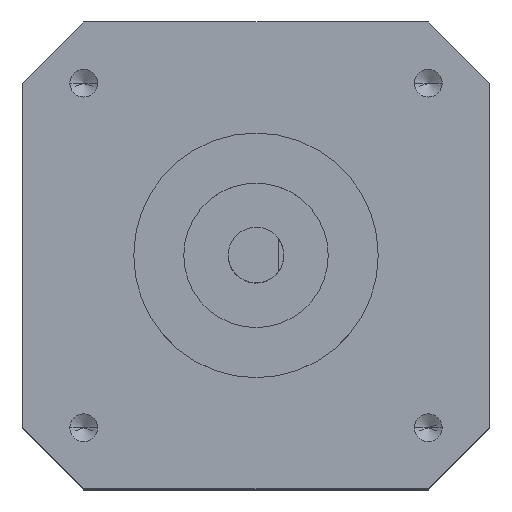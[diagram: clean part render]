
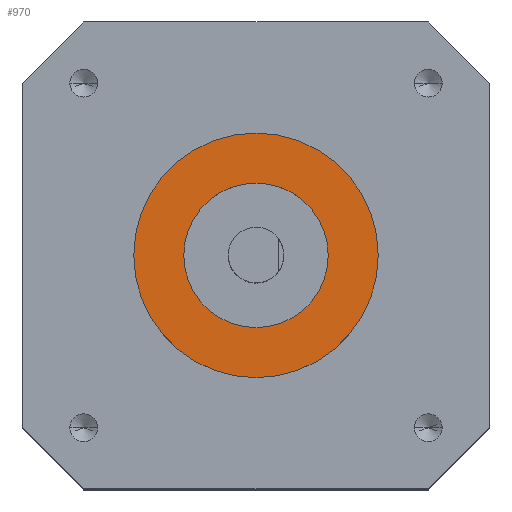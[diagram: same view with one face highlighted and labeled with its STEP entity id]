
A CAD part, top view. The second image highlights one B-rep face of the part: STEP entity #970.
In plain terms, the highlighted planar face has unit normal (0, 0, 1).
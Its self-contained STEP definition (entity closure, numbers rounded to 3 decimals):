
#28 = EDGE_LOOP ( 'NONE', ( #897, #2098 ) ) ;
#188 = AXIS2_PLACEMENT_3D ( 'NONE', #1027, #2662, #1257 ) ;
#218 = PLANE ( 'NONE',  #2654 ) ;
#227 = DIRECTION ( 'NONE',  ( 0., 0., 1. ) ) ;
#267 = CARTESIAN_POINT ( 'NONE',  ( -11., 0., 2. ) ) ;
#325 = CARTESIAN_POINT ( 'NONE',  ( 6.5, 0., 2. ) ) ;
#364 = CIRCLE ( 'NONE', #2725, 6.5 ) ;
#636 = CIRCLE ( 'NONE', #2184, 11. ) ;
#658 = FACE_OUTER_BOUND ( 'NONE', #28, .T. ) ;
#673 = EDGE_CURVE ( 'NONE', #744, #2390, #636, .T. ) ;
#744 = VERTEX_POINT ( 'NONE', #267 ) ;
#835 = CARTESIAN_POINT ( 'NONE',  ( 0., 0., 2. ) ) ;
#869 = ORIENTED_EDGE ( 'NONE', *, *, #912, .F. ) ;
#897 = ORIENTED_EDGE ( 'NONE', *, *, #673, .T. ) ;
#912 = EDGE_CURVE ( 'NONE', #2916, #1865, #364, .T. ) ;
#969 = DIRECTION ( 'NONE',  ( 0., 0., 1. ) ) ;
#970 = ADVANCED_FACE ( 'NONE', ( #658, #2457 ), #218, .T. ) ;
#993 = CARTESIAN_POINT ( 'NONE',  ( -6.5, 0., 2. ) ) ;
#1027 = CARTESIAN_POINT ( 'NONE',  ( 0., 0., 2. ) ) ;
#1065 = DIRECTION ( 'NONE',  ( 1., 0., 0. ) ) ;
#1068 = EDGE_LOOP ( 'NONE', ( #2649, #869 ) ) ;
#1152 = DIRECTION ( 'NONE',  ( 0., 0., 1. ) ) ;
#1257 = DIRECTION ( 'NONE',  ( 1., 0., 0. ) ) ;
#1320 = EDGE_CURVE ( 'NONE', #2390, #744, #2296, .T. ) ;
#1453 = EDGE_CURVE ( 'NONE', #1865, #2916, #2863, .T. ) ;
#1616 = CARTESIAN_POINT ( 'NONE',  ( 0., 0., 2. ) ) ;
#1759 = AXIS2_PLACEMENT_3D ( 'NONE', #1616, #227, #1863 ) ;
#1863 = DIRECTION ( 'NONE',  ( 1., 0., 0. ) ) ;
#1865 = VERTEX_POINT ( 'NONE', #993 ) ;
#2098 = ORIENTED_EDGE ( 'NONE', *, *, #1320, .T. ) ;
#2184 = AXIS2_PLACEMENT_3D ( 'NONE', #835, #2468, #1065 ) ;
#2296 = CIRCLE ( 'NONE', #188, 11. ) ;
#2330 = CARTESIAN_POINT ( 'NONE',  ( 0., 0., 2. ) ) ;
#2390 = VERTEX_POINT ( 'NONE', #2687 ) ;
#2457 = FACE_BOUND ( 'NONE', #1068, .T. ) ;
#2468 = DIRECTION ( 'NONE',  ( 0., 0., 1. ) ) ;
#2649 = ORIENTED_EDGE ( 'NONE', *, *, #1453, .F. ) ;
#2654 = AXIS2_PLACEMENT_3D ( 'NONE', #2330, #1152, #2780 ) ;
#2662 = DIRECTION ( 'NONE',  ( 0., 0., 1. ) ) ;
#2687 = CARTESIAN_POINT ( 'NONE',  ( 11., 0., 2. ) ) ;
#2725 = AXIS2_PLACEMENT_3D ( 'NONE', #2991, #969, #2973 ) ;
#2780 = DIRECTION ( 'NONE',  ( 1., 0., 0. ) ) ;
#2863 = CIRCLE ( 'NONE', #1759, 6.5 ) ;
#2916 = VERTEX_POINT ( 'NONE', #325 ) ;
#2973 = DIRECTION ( 'NONE',  ( 1., 0., 0. ) ) ;
#2991 = CARTESIAN_POINT ( 'NONE',  ( 0., 0., 2. ) ) ;
